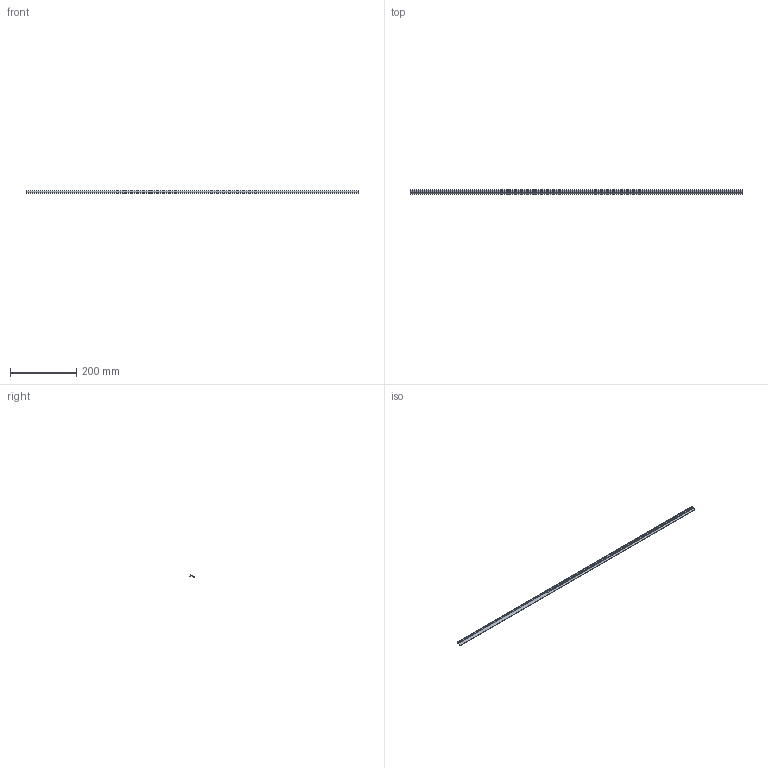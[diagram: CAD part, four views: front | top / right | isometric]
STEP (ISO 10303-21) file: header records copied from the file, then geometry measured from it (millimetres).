
FILE_DESCRIPTION (( 'STEP AP203' ), '1' );
FILE_NAME ('10098_DIC46.STEP', '2018-03-09T10:04:47', ( '' ), ( '' ), 'SwSTEP 2.0', 'SolidWorks 2017', '' );
FILE_SCHEMA (( 'CONFIG_CONTROL_DESIGN' ));
Length unit declared in the file: millimetre
Products named in the file (1): 10098_DIC46
Bounding box: 1000 x 13.39 x 7.84 mm (x, y, z)
Volume: 28155.7 mm3; surface area: 40991.4 mm2
Topology: 1 solids, 1 shells, 27 faces, 75 edges, 50 vertices
Faces by surface type: cylinder 15, plane 12
Entity records: 958 total; most frequent: DIRECTION 159, CARTESIAN_POINT 159, ORIENTED_EDGE 150, EDGE_CURVE 75, AXIS2_PLACEMENT_3D 58, VERTEX_POINT 50, LINE 43, VECTOR 43
